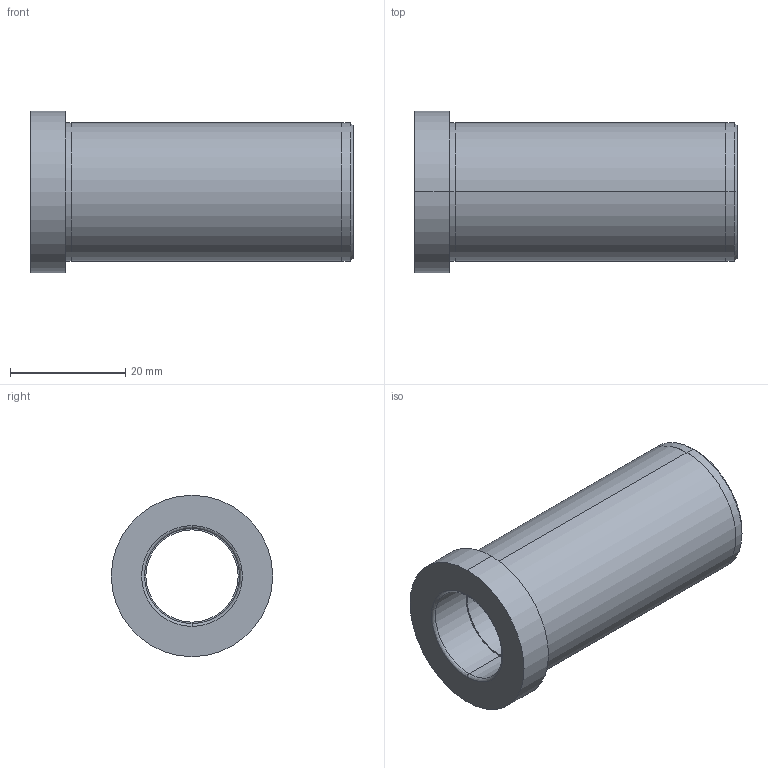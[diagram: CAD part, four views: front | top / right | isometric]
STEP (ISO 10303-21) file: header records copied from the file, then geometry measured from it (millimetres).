
FILE_DESCRIPTION( ( 'STEP AP203' ), '1' );
FILE_NAME( 'D:/Delta 3 D/D20/D20 - 16x56.step', '2002-12-31T23:36:23', ( ' ' ), ( ' ' ), 'XStep 1.0', ' ', ' ' );
FILE_SCHEMA( ( 'CONFIG_CONTROL_DESIGN' ) );
Length unit declared in the file: metre
Products named in the file (1): 1
Bounding box: 56 x 28 x 28 mm (x, y, z)
Volume: 14973 mm3; surface area: 7914.9 mm2
Topology: 1 solids, 1 shells, 24 faces, 48 edges, 30 vertices
Faces by surface type: revolution 14, bspline 10
Entity records: 755 total; most frequent: CARTESIAN_POINT 221, ORIENTED_EDGE 96, DIRECTION 90, EDGE_CURVE 48, AXIS2_PLACEMENT_3D 31, EDGE_LOOP 30, VERTEX_POINT 30, CIRCLE 30
